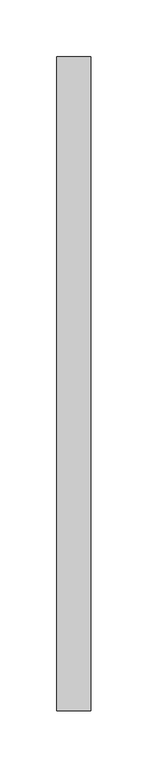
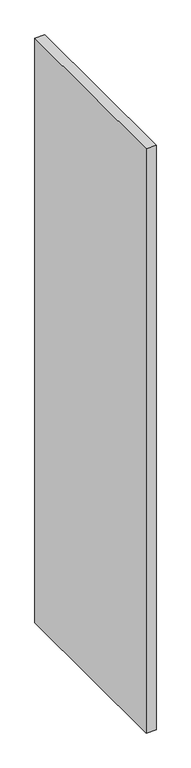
"""IFC4 building model written with IfcOpenShell, lengths in millimetres: furniture geometry, Divisoria_Lateral Fechada : Divisoria_Lateral Fechada_130x180."""

import ifcopenshell
import ifcopenshell.guid

model = None  # the IFC model being written
_history = None  # IfcOwnerHistory: only IFC2X3 demands one
_inside = {}  # id of a spatial element -> (the spatial element, [elements in it])
_under = {}  # id of a project, library or spatial element -> (it, [spatial elements below it])
_declared = {}  # id of a project -> (the project, [libraries it declares])
_typed = {}  # id of a type object -> (the type object, [elements of that type])
_made_of = {}  # id of a material, layer set ... -> (it, [elements and type objects made of it])


def new_model(schema):
    """Start an empty IFC model of exactly this schema.

    Asked for "IFC4X3", IfcOpenShell would pick the latest addendum, in which some entities
    have other attributes; the version numbers below select the first issue.
    IFC2X3 requires an IfcOwnerHistory on every rooted entity: one is made here for all.
    """
    global model, _history
    if schema == "IFC4X3":
        model = ifcopenshell.file(schema_version=(4, 3, 0, 0))
    else:
        model = ifcopenshell.file(schema=schema)
    _inside.clear()
    _under.clear()
    _declared.clear()
    _typed.clear()
    _made_of.clear()
    _history = None
    if model.schema == "IFC2X3":
        org = make("IfcOrganization", Name="unknown")
        user = make(
            "IfcPersonAndOrganization",
            ThePerson=make("IfcPerson", FamilyName="unknown"),
            TheOrganization=org,
        )
        app = make(
            "IfcApplication",
            ApplicationDeveloper=org,
            Version="unknown",
            ApplicationFullName="unknown",
            ApplicationIdentifier="unknown",
        )
        _history = make(
            "IfcOwnerHistory",
            OwningUser=user,
            OwningApplication=app,
            ChangeAction="ADDED",
            CreationDate=0,
        )
    return model


def make(cls, **values):
    """One entity of the class cls with the attributes given. An attribute that is None is left unset."""
    return model.create_entity(
        cls, **{name: value for name, value in values.items() if value is not None}
    )


def rooted(cls, **values):
    """An entity with a GlobalId (a new one), such as an element, a storey or a relation."""
    return make(cls, GlobalId=ifcopenshell.guid.new(), OwnerHistory=_history, **values)


def si_unit(unit_type, name, prefix=None):
    """IfcSIUnit, for example si_unit("LENGTHUNIT", "METRE", prefix="MILLI")."""
    return make("IfcSIUnit", UnitType=unit_type, Prefix=prefix, Name=name)


def assignment(units):
    """IfcUnitAssignment: the units of a project."""
    return None if units is None else make("IfcUnitAssignment", Units=units)


def point(xyz):
    """IfcCartesianPoint."""
    return None if xyz is None else make("IfcCartesianPoint", Coordinates=xyz)


def direction(xyz):
    """IfcDirection."""
    return None if xyz is None else make("IfcDirection", DirectionRatios=xyz)


def frame(location, z_axis=None, x_axis=None):
    """IfcAxis2Placement3D, a coordinate frame: its origin and axes. An axis left out is left unset."""
    return make(
        "IfcAxis2Placement3D",
        Location=point(location),
        Axis=direction(z_axis),
        RefDirection=direction(x_axis),
    )


def origin():
    """The frame at (0, 0, 0) with its axes left unset."""
    return frame((0.0, 0.0, 0.0))


def place(relative_to, where):
    """IfcLocalPlacement: puts the frame where relative to a parent placement (None: the world)."""
    return make(
        "IfcLocalPlacement", PlacementRelTo=relative_to, RelativePlacement=where
    )


def context(
    kind, dimensions, precision=None, world=None, true_north=None, identifier=None
):
    """IfcGeometricRepresentationContext, for example the 3D "Model" context."""
    return make(
        "IfcGeometricRepresentationContext",
        ContextIdentifier=identifier,
        ContextType=kind,
        CoordinateSpaceDimension=dimensions,
        Precision=precision,
        WorldCoordinateSystem=world,
        TrueNorth=true_north,
    )


def project(units=None, contexts=None):
    """IfcProject with its units and contexts."""
    return rooted(
        "IfcProject",
        Name="project",
        RepresentationContexts=contexts,
        UnitsInContext=assignment(units),
    )


def spatial(cls, under=None, at=None, **own):
    """A site, building, storey or space (cls), placed at a placement, below another one or the project."""
    s = rooted(cls, ObjectPlacement=at, **own)
    if under is not None:
        _under.setdefault(under.id(), (under, []))[1].append(s)
    return s


def polyline(points):
    """IfcPolyline through the points."""
    return make("IfcPolyline", Points=[point(p) for p in points])


def outline(outer, holes=None, kind="AREA"):
    """IfcArbitraryClosedProfileDef: a profile drawn as a closed curve; with holes, ...WithVoids."""
    if holes is None:
        return make("IfcArbitraryClosedProfileDef", ProfileType=kind, OuterCurve=outer)
    return make(
        "IfcArbitraryProfileDefWithVoids",
        ProfileType=kind,
        OuterCurve=outer,
        InnerCurves=holes,
    )


def extrude(swept, where, along, depth):
    """IfcExtrudedAreaSolid: the profile swept, set in the frame where, extruded along a direction by depth."""
    return make(
        "IfcExtrudedAreaSolid",
        SweptArea=swept,
        Position=where,
        ExtrudedDirection=direction(along),
        Depth=depth,
    )


def shape(context_of_items, identifier, shape_type, items):
    """IfcShapeRepresentation: the items that make up one representation, for example the "Body"."""
    return make(
        "IfcShapeRepresentation",
        ContextOfItems=context_of_items,
        RepresentationIdentifier=identifier,
        RepresentationType=shape_type,
        Items=items,
    )


def source(mapping_origin, context_of_items, identifier, shape_type, items):
    """IfcRepresentationMap: a shape defined once, which mapped items show again and again."""
    return make(
        "IfcRepresentationMap",
        MappingOrigin=mapping_origin,
        MappedRepresentation=shape(context_of_items, identifier, shape_type, items),
    )


def transform(
    local_origin,
    x_axis=None,
    y_axis=None,
    z_axis=None,
    scale=None,
    scale2=None,
    scale3=None,
    uniform=True,
):
    """IfcCartesianTransformationOperator3D, or its non-uniform kind. x_axis, y_axis, z_axis: its Axis1, 2, 3."""
    if uniform:
        return make(
            "IfcCartesianTransformationOperator3D",
            Axis1=direction(x_axis),
            Axis2=direction(y_axis),
            LocalOrigin=point(local_origin),
            Scale=scale,
            Axis3=direction(z_axis),
        )
    return make(
        "IfcCartesianTransformationOperator3DnonUniform",
        Axis1=direction(x_axis),
        Axis2=direction(y_axis),
        LocalOrigin=point(local_origin),
        Scale=scale,
        Axis3=direction(z_axis),
        Scale2=scale2,
        Scale3=scale3,
    )


def mapped(mapping_source, mapping_target):
    """IfcMappedItem: shows the shape of a source again, moved by a transform."""
    return make(
        "IfcMappedItem", MappingSource=mapping_source, MappingTarget=mapping_target
    )


def made_of(thing, what):
    """Note that an element or type object is made of a material, layer set ...; save() writes the relation."""
    if what is not None:
        _made_of.setdefault(what.id(), (what, []))[1].append(thing)
    return thing


def element(
    cls,
    number,
    at=None,
    inside=None,
    cuts=None,
    type_object=None,
    material=None,
    context=None,
    identifier="Body",
    shape_type=None,
    held_by="IfcProductDefinitionShape",
    body=None,
    shapes=None,
    **own,
):
    """One element of the class cls, such as IfcWall. Its Tag is "e" and its number.

    at: its placement. inside: the storey or other place that contains it. cuts: it is an
    opening in that element (IfcRelVoidsElement). A single representation is given by context,
    identifier, shape_type and body (its items); several are given by shapes. held_by: the class
    of the entity that holds the representations. save() writes the other relations.
    """
    e = rooted(cls, Tag="e%d" % number, ObjectPlacement=at, **own)
    if body is not None:
        shapes = [shape(context, identifier, shape_type, body)]
    if shapes is not None:
        e.Representation = make(held_by, Representations=shapes)
    if inside is not None:
        _inside.setdefault(inside.id(), (inside, []))[1].append(e)
    if cuts is not None:
        rooted(
            "IfcRelVoidsElement", RelatingBuildingElement=cuts, RelatedOpeningElement=e
        )
    if type_object is not None:
        _typed.setdefault(type_object.id(), (type_object, []))[1].append(e)
    return made_of(e, material)


def aggregate(whole, parts):
    """IfcRelAggregates: a whole, such as a stair, and the parts it consists of."""
    return rooted("IfcRelAggregates", RelatingObject=whole, RelatedObjects=parts)


def save(model, path):
    """Write the relations noted so far, then the file.

    IfcRelAggregates (storeys below a building ...), IfcRelContainedInSpatialStructure (elements
    in a storey), IfcRelDefinesByType, IfcRelAssociatesMaterial and IfcRelDeclares: one each for
    every whole, place, type object, material and project.
    """
    for whole, parts in _under.values():
        aggregate(whole, parts)
    for where, things in _inside.values():
        rooted(
            "IfcRelContainedInSpatialStructure",
            RelatedElements=things,
            RelatingStructure=where,
        )
    for kind, things in _typed.values():
        rooted("IfcRelDefinesByType", RelatedObjects=things, RelatingType=kind)
    for what, things in _made_of.values():
        rooted("IfcRelAssociatesMaterial", RelatedObjects=things, RelatingMaterial=what)
    for by, libraries in _declared.values():
        rooted("IfcRelDeclares", RelatingContext=by, RelatedDefinitions=libraries)
    model.write(path)


def furniture_e4452679(model_context):
    return source(origin(), model_context, "Body", "SweptSolid", [
        extrude(outline(polyline([(59.7003264, -50.0), (29.7003264, -50.0), (29.7003264, 526.2550653), (59.7003264, 526.2550653), (59.7003264, -50.0)])), frame((0.0, 0.0, 50.0), z_axis=(0.0, 0.0, 1.0), x_axis=(1.0, 0.0, 0.0)), (0.0, 0.0, 1.0), 1850.0),
    ])


if __name__ == "__main__":
    model = new_model("IFC4")
    model_context = context("Model", 3, world=origin())
    ifc_project = project(units=[si_unit("LENGTHUNIT", "METRE", prefix="MILLI")], contexts=[model_context])
    site = spatial("IfcSite", under=ifc_project)
    building = spatial("IfcBuilding", under=site)
    placement = place(None, origin())
    furniture_shape = furniture_e4452679(model_context)
    element("IfcFurniture", 1, ObjectType="Divisoria_Lateral Fechada : Divisoria_Lateral Fechada_130x180", at=placement, inside=building, context=model_context, shape_type="MappedRepresentation", body=[
        mapped(furniture_shape, transform((0.0, 0.0, 0.0), x_axis=(1.0, 0.0, 0.0), y_axis=(0.0, 1.0, 0.0), z_axis=(0.0, 0.0, 1.0))),
    ])
    save(model, "model.ifc")
